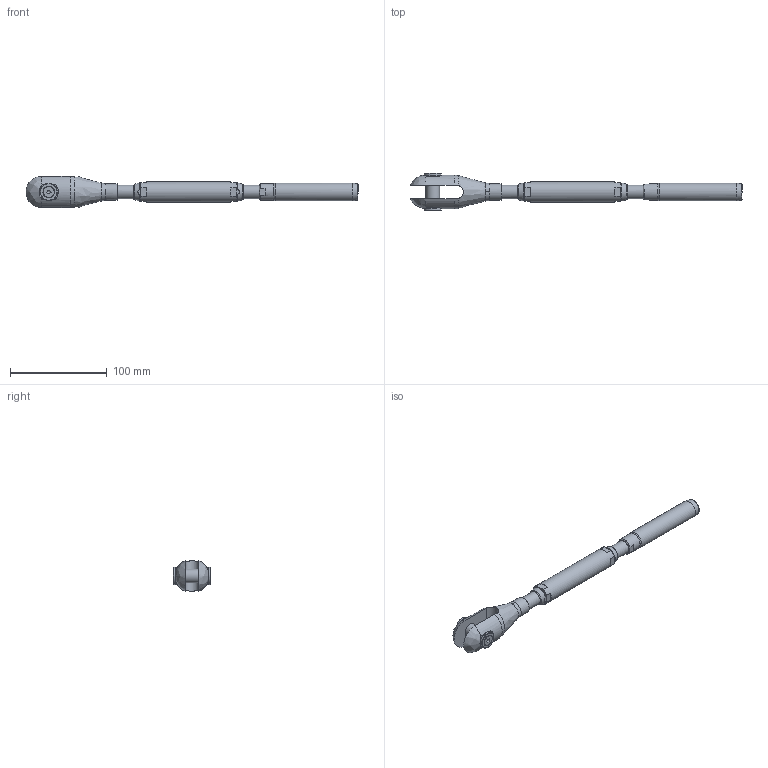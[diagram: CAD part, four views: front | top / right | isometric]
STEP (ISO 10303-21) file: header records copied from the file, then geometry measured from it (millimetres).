
FILE_DESCRIPTION(/* description */ (''),/* implementation_level */ '2;1');
FILE_NAME(/* name */ 'TBC 10_42CrMo4',/* time_stamp */ '2023-05-23T18:16:34+02:00',/* author */ (''),/* organization */ (''),/* preprocessor_version */ 'ST-DEVELOPER v16.5',/* originating_system */ 'Rhino 7.22',/* authorisation */ '');
FILE_SCHEMA (('CONFIG_CONTROL_DESIGN'));
Length unit declared in the file: millimetre
Products named in the file (1): Document
Bounding box: 343.03 x 39.12 x 32.08 mm (x, y, z)
Volume: 103645.8 mm3; surface area: 40191 mm2
Topology: 10 solids, 10 shells, 140 faces, 382 edges, 264 vertices
Faces by surface type: plane 65, bspline 40, cylinder 35
Full cylindrical faces by diameter (mm): 4.917 x2, 6 x2, 6.5 x2, 11.34 x2, 11.835 x4, 14 x3, 15 x2, 17 x1, 17.4 x2, 18 x2, 18.3 x1, 21 x1
Entity records: 5863 total; most frequent: CARTESIAN_POINT 3438, ORIENTED_EDGE 756, EDGE_CURVE 378, VERTEX_POINT 264, EDGE_LOOP 160, B_SPLINE_CURVE_WITH_KNOTS 157, ADVANCED_FACE 140, FACE_OUTER_BOUND 140
